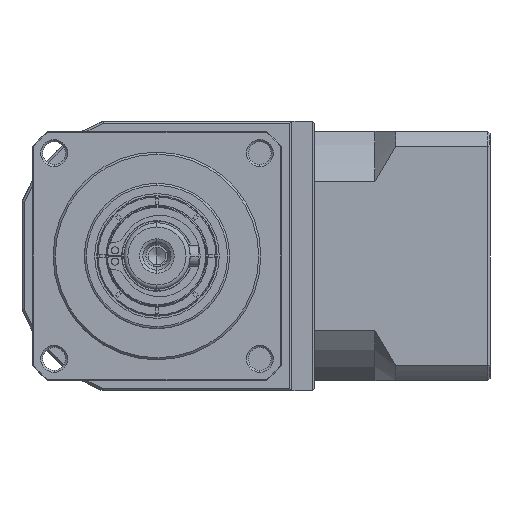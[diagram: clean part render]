
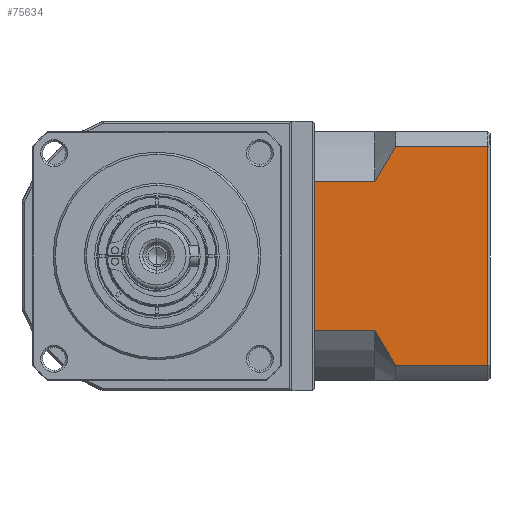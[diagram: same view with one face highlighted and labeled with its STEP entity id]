
A CAD part, left-side view. The second image highlights one B-rep face of the part: STEP entity #75634.
In plain terms, the highlighted planar face has unit normal (-1, 0, 0).
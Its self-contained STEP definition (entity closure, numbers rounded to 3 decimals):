
#1256 = EDGE_CURVE ( 'NONE', #119112, #105495, #125916, .T. ) ;
#2333 = ORIENTED_EDGE ( 'NONE', *, *, #25870, .T. ) ;
#4941 = ORIENTED_EDGE ( 'NONE', *, *, #102718, .F. ) ;
#6018 = ORIENTED_EDGE ( 'NONE', *, *, #149632, .T. ) ;
#9086 = CARTESIAN_POINT ( 'NONE',  ( -26.181, -102.118, -98. ) ) ;
#10569 = CARTESIAN_POINT ( 'NONE',  ( -26.181, -79.918, -150.915 ) ) ;
#12103 = ORIENTED_EDGE ( 'NONE', *, *, #84192, .F. ) ;
#15965 = ORIENTED_EDGE ( 'NONE', *, *, #32878, .T. ) ;
#16718 = CARTESIAN_POINT ( 'NONE',  ( -26.181, -78.145, -100.738 ) ) ;
#19627 = ORIENTED_EDGE ( 'NONE', *, *, #156565, .F. ) ;
#20214 = ORIENTED_EDGE ( 'NONE', *, *, #1256, .T. ) ;
#20650 = PLANE ( 'NONE',  #53488 ) ;
#23044 = CARTESIAN_POINT ( 'NONE',  ( -26.181, -74.918, -98. ) ) ;
#25870 = EDGE_CURVE ( 'NONE', #85120, #114462, #29327, .T. ) ;
#28992 = CARTESIAN_POINT ( 'NONE',  ( -26.181, -75.666, -104.977 ) ) ;
#29327 = LINE ( 'NONE', #52847, #94434 ) ;
#30819 = CARTESIAN_POINT ( 'NONE',  ( -26.181, -74.918, -106.429 ) ) ;
#31771 = DIRECTION ( 'NONE',  ( 0., 1., 0. ) ) ;
#32878 = EDGE_CURVE ( 'NONE', #107512, #124194, #64086, .T. ) ;
#33990 = CARTESIAN_POINT ( 'NONE',  ( -26.181, -79.918, -150.915 ) ) ;
#34015 = CARTESIAN_POINT ( 'NONE',  ( -26.181, -79.017, -149.552 ) ) ;
#34171 = CARTESIAN_POINT ( 'NONE',  ( -26.181, -78.143, -148.172 ) ) ;
#34362 = CARTESIAN_POINT ( 'NONE',  ( -26.181, -74.918, -142.485 ) ) ;
#34521 = CARTESIAN_POINT ( 'NONE',  ( -26.181, -76.469, -145.367 ) ) ;
#34552 = CARTESIAN_POINT ( 'NONE',  ( -26.181, -75.668, -143.941 ) ) ;
#38354 = LINE ( 'NONE', #147017, #99602 ) ;
#39427 = B_SPLINE_CURVE_WITH_KNOTS ( 'NONE', 3,
 ( #77684, #150777, #16718, #102316, #28992, #114535 ),
 .UNSPECIFIED., .F., .F.,
 ( 4, 2, 4 ),
 ( 0.052, 0.057, 0.062 ),
 .UNSPECIFIED. ) ;
#43111 = DIRECTION ( 'NONE',  ( 0., -1., 0. ) ) ;
#44081 = CARTESIAN_POINT ( 'NONE',  ( -26.181, -74.918, -142.485 ) ) ;
#52518 = EDGE_CURVE ( 'NONE', #85120, #105495, #38354, .T. ) ;
#52847 = CARTESIAN_POINT ( 'NONE',  ( -26.181, -102.118, -154.457 ) ) ;
#53200 = VECTOR ( 'NONE', #43111, 1000. ) ;
#53488 = AXIS2_PLACEMENT_3D ( 'NONE', #69825, #155141, #82097 ) ;
#64086 = LINE ( 'NONE', #72511, #125264 ) ;
#69825 = CARTESIAN_POINT ( 'NONE',  ( -26.181, -102.618, -154.457 ) ) ;
#70914 = CARTESIAN_POINT ( 'NONE',  ( -26.181, -79.918, -98. ) ) ;
#72511 = CARTESIAN_POINT ( 'NONE',  ( -26.181, -60.418, -154.457 ) ) ;
#75634 = ADVANCED_FACE ( 'NONE', ( #81048 ), #20650, .F. ) ;
#77684 = CARTESIAN_POINT ( 'NONE',  ( -26.181, -79.918, -98. ) ) ;
#81048 = FACE_OUTER_BOUND ( 'NONE', #149326, .T. ) ;
#82097 = DIRECTION ( 'NONE',  ( 0., 1., 0. ) ) ;
#82206 = CARTESIAN_POINT ( 'NONE',  ( -26.181, -60.418, -142.485 ) ) ;
#84192 = EDGE_CURVE ( 'NONE', #107512, #121242, #85811, .T. ) ;
#85120 = VERTEX_POINT ( 'NONE', #92647 ) ;
#85811 = LINE ( 'NONE', #30819, #53200 ) ;
#87150 = LINE ( 'NONE', #44081, #115721 ) ;
#92647 = CARTESIAN_POINT ( 'NONE',  ( -26.181, -102.118, -150.915 ) ) ;
#94434 = VECTOR ( 'NONE', #138356, 1000. ) ;
#94593 = CARTESIAN_POINT ( 'NONE',  ( -26.181, -60.418, -106.429 ) ) ;
#99602 = VECTOR ( 'NONE', #112348, 1000. ) ;
#99730 = VECTOR ( 'NONE', #120845, 1000. ) ;
#102316 = CARTESIAN_POINT ( 'NONE',  ( -26.181, -76.469, -103.546 ) ) ;
#102718 = EDGE_CURVE ( 'NONE', #112391, #114462, #132130, .T. ) ;
#105495 = VERTEX_POINT ( 'NONE', #10569 ) ;
#107512 = VERTEX_POINT ( 'NONE', #94593 ) ;
#108365 = DIRECTION ( 'NONE',  ( 0., 0., -1. ) ) ;
#112348 = DIRECTION ( 'NONE',  ( 0., 1., 0. ) ) ;
#112391 = VERTEX_POINT ( 'NONE', #70914 ) ;
#113283 = CARTESIAN_POINT ( 'NONE',  ( -26.181, -74.918, -142.485 ) ) ;
#114462 = VERTEX_POINT ( 'NONE', #9086 ) ;
#114535 = CARTESIAN_POINT ( 'NONE',  ( -26.181, -74.918, -106.429 ) ) ;
#115721 = VECTOR ( 'NONE', #31771, 1000. ) ;
#119112 = VERTEX_POINT ( 'NONE', #113283 ) ;
#120845 = DIRECTION ( 'NONE',  ( 0., -1., 0. ) ) ;
#121242 = VERTEX_POINT ( 'NONE', #147235 ) ;
#124194 = VERTEX_POINT ( 'NONE', #82206 ) ;
#125264 = VECTOR ( 'NONE', #108365, 1000. ) ;
#125916 = B_SPLINE_CURVE_WITH_KNOTS ( 'NONE', 3,
 ( #34362, #34552, #34521, #34171, #34015, #33990 ),
 .UNSPECIFIED., .F., .F.,
 ( 4, 2, 4 ),
 ( 0.1, 0.104, 0.109 ),
 .UNSPECIFIED. ) ;
#132130 = LINE ( 'NONE', #23044, #99730 ) ;
#138356 = DIRECTION ( 'NONE',  ( 0., 0., 1. ) ) ;
#147017 = CARTESIAN_POINT ( 'NONE',  ( -26.181, -74.918, -150.915 ) ) ;
#147235 = CARTESIAN_POINT ( 'NONE',  ( -26.181, -74.918, -106.429 ) ) ;
#149326 = EDGE_LOOP ( 'NONE', ( #156756, #2333, #4941, #6018, #12103, #15965, #19627, #20214 ) ) ;
#149632 = EDGE_CURVE ( 'NONE', #112391, #121242, #39427, .T. ) ;
#150777 = CARTESIAN_POINT ( 'NONE',  ( -26.181, -79.018, -99.36 ) ) ;
#155141 = DIRECTION ( 'NONE',  ( 1., 0., 0. ) ) ;
#156565 = EDGE_CURVE ( 'NONE', #119112, #124194, #87150, .T. ) ;
#156756 = ORIENTED_EDGE ( 'NONE', *, *, #52518, .F. ) ;
